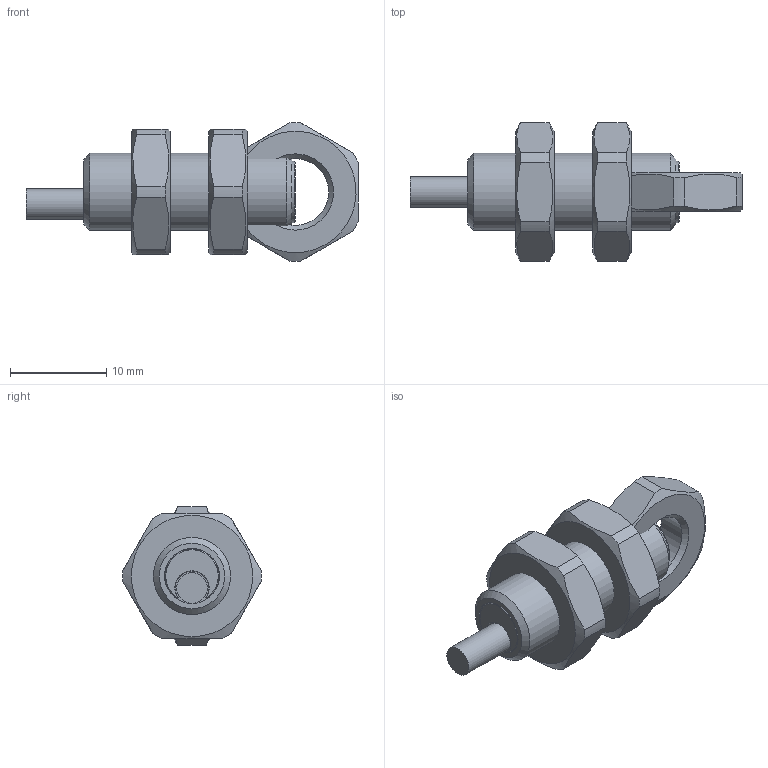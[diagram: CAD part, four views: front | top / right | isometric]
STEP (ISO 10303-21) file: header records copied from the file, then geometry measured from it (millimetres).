
FILE_DESCRIPTION( ( 'Unknown' ), '1' );
FILE_NAME( '//server-file-1/e_me/Solid Edge/Models/Dokumentationen/induktiv/IxRx 08/Vereinfachte Modelle/Neutralformate/IFRM 08xxx13_L.stp', 'Unknown', ( 'Unknown' ), ( 'Unknown' ), 'XStep 1.0', 'Unknown', ' ' );
FILE_SCHEMA( ( 'CONFIG_CONTROL_DESIGN' ) );
Length unit declared in the file: millimetre
Products named in the file (3): Assem1; 101469; IFRM 08xxx13_L_oA
Bounding box: 34.45 x 14.4 x 14.4 mm (x, y, z)
Volume: 3525.6 mm3; surface area: 2730.2 mm2
Topology: 5 solids, 5 shells, 95 faces, 227 edges, 150 vertices
Faces by surface type: plane 44, cylinder 29, cone 22
Full cylindrical faces by diameter (mm): 3.2 x2, 5.7 x2, 6.4 x2, 6.917 x3, 8 x2
Entity records: 1206 total; most frequent: CARTESIAN_POINT 276, DIRECTION 170, ORIENTED_EDGE 142, AXIS2_PLACEMENT_3D 75, EDGE_CURVE 71, EDGE_LOOP 56, VERTEX_POINT 53, FACE_OUTER_BOUND 43
